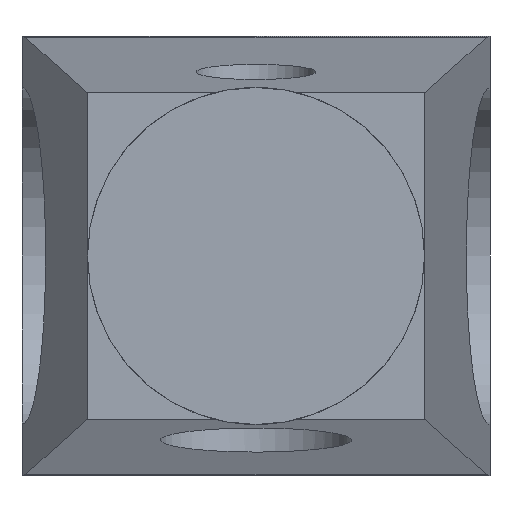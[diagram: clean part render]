
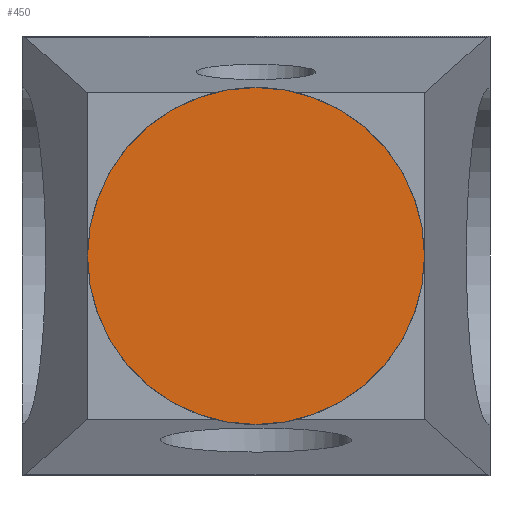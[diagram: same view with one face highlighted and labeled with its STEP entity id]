
A CAD part, front view. The second image highlights one B-rep face of the part: STEP entity #450.
In plain terms, the highlighted planar face has unit normal (0, -1, 0).
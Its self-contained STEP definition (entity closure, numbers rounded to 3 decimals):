
#6 = AXIS2_PLACEMENT_3D ( 'NONE', #444, #390, #336 ) ;
#33 = AXIS2_PLACEMENT_3D ( 'NONE', #753, #151, #269 ) ;
#138 = ORIENTED_EDGE ( 'NONE', *, *, #367, .T. ) ;
#151 = DIRECTION ( 'NONE',  ( 0., -1., 0. ) ) ;
#189 = ORIENTED_EDGE ( 'NONE', *, *, #309, .T. ) ;
#207 = CIRCLE ( 'NONE', #6, 9. ) ;
#269 = DIRECTION ( 'NONE',  ( 1., 0., 0. ) ) ;
#283 = PLANE ( 'NONE',  #775 ) ;
#309 = EDGE_CURVE ( 'NONE', #403, #668, #207, .T. ) ;
#321 = CIRCLE ( 'NONE', #33, 9. ) ;
#336 = DIRECTION ( 'NONE',  ( 1., 0., 0. ) ) ;
#342 = EDGE_LOOP ( 'NONE', ( #138, #189 ) ) ;
#367 = EDGE_CURVE ( 'NONE', #668, #403, #321, .T. ) ;
#388 = CARTESIAN_POINT ( 'NONE',  ( 9., -134.904, 0. ) ) ;
#390 = DIRECTION ( 'NONE',  ( 0., -1., 0. ) ) ;
#403 = VERTEX_POINT ( 'NONE', #388 ) ;
#444 = CARTESIAN_POINT ( 'NONE',  ( 0., -134.904, 0. ) ) ;
#450 = ADVANCED_FACE ( 'NONE', ( #630 ), #283, .T. ) ;
#530 = DIRECTION ( 'NONE',  ( 1., 0., 0. ) ) ;
#535 = CARTESIAN_POINT ( 'NONE',  ( -9., -134.904, 0. ) ) ;
#630 = FACE_OUTER_BOUND ( 'NONE', #342, .T. ) ;
#646 = DIRECTION ( 'NONE',  ( 0., -1., 0. ) ) ;
#668 = VERTEX_POINT ( 'NONE', #535 ) ;
#753 = CARTESIAN_POINT ( 'NONE',  ( 0., -134.904, 0. ) ) ;
#772 = CARTESIAN_POINT ( 'NONE',  ( 0., -134.904, 0. ) ) ;
#775 = AXIS2_PLACEMENT_3D ( 'NONE', #772, #646, #530 ) ;
